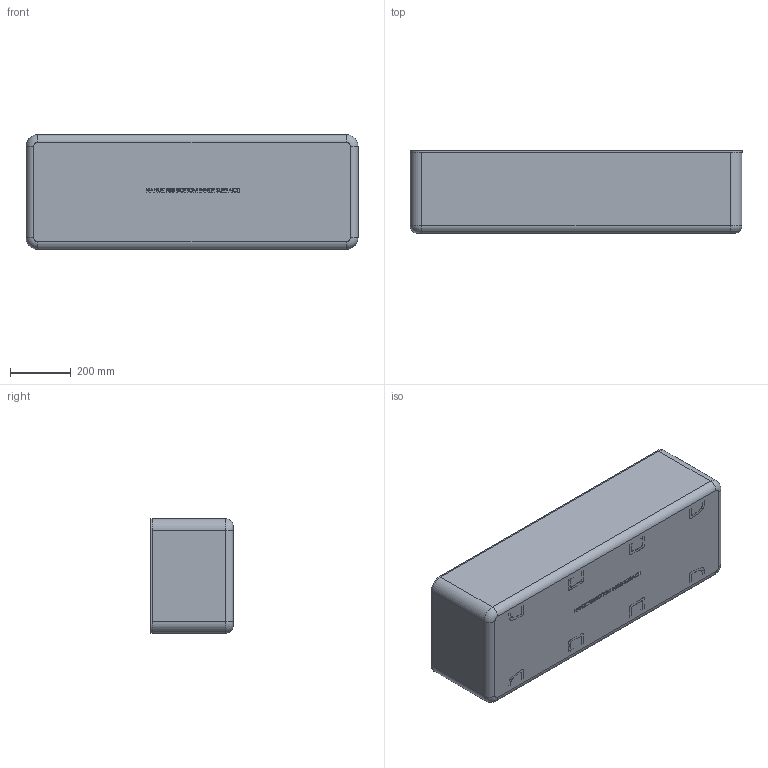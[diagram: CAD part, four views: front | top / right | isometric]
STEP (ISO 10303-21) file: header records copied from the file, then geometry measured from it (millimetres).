
FILE_DESCRIPTION (( 'STEP AP214' ), '1' );
FILE_NAME ('988_Bottom inner surface.STEP', '2022-01-12T16:23:53', ( '' ), ( '' ), 'SwSTEP 2.0', 'SolidWorks 2021', '' );
FILE_SCHEMA (( 'AUTOMOTIVE_DESIGN' ));
Products named in the file (1): 988_Bottom inner surface
Bounding box: 1092.03 x 272.16 x 377.53 mm (x, y, z)
Volume: 22652119.6 mm3; surface area: 4472841.7 mm2
Topology: 2 solids, 2 shells, 8151 faces, 19981 edges, 11707 vertices
Faces by surface type: bspline 3689, cylinder 2077, plane 1521, torus 414, cone 366, sphere 84
Entity records: 407058 total; most frequent: CARTESIAN_POINT 248128, ORIENTED_EDGE 39410, DIRECTION 25653, EDGE_CURVE 19705, VERTEX_POINT 11707, AXIS2_PLACEMENT_3D 9831, EDGE_LOOP 8300, FACE_OUTER_BOUND 8151
